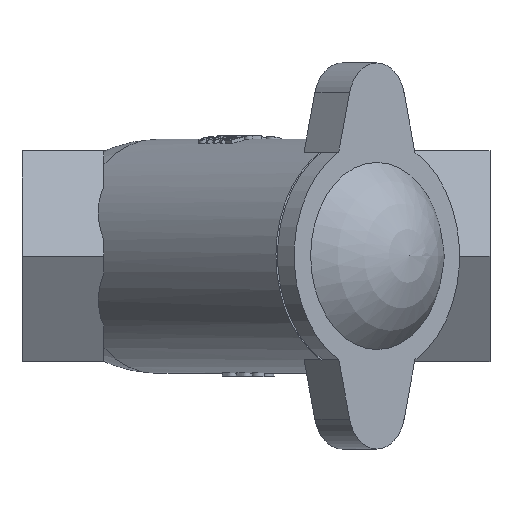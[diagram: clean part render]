
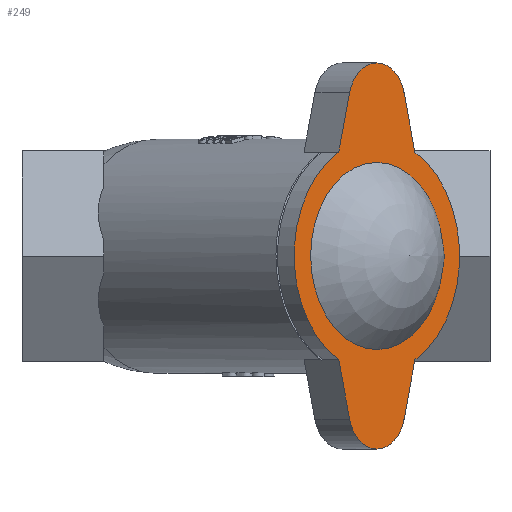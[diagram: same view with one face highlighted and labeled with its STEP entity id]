
A CAD part, top view. The second image highlights one B-rep face of the part: STEP entity #249.
In plain terms, the highlighted planar face has unit normal (0.707, 0, 0.707).
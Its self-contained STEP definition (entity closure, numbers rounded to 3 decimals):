
#249 = ADVANCED_FACE( '', ( #668, #669 ), #670, .F. );
#668 = FACE_OUTER_BOUND( '', #1658, .T. );
#669 = FACE_BOUND( '', #1659, .T. );
#670 = PLANE( '', #1660 );
#1658 = EDGE_LOOP( '', ( #6585, #6586, #6587, #6588, #6589, #6590, #6591, #6592 ) );
#1659 = EDGE_LOOP( '', ( #6593 ) );
#1660 = AXIS2_PLACEMENT_3D( '', #6594, #6595, #6596 );
#6585 = ORIENTED_EDGE( '', *, *, #8128, .F. );
#6586 = ORIENTED_EDGE( '', *, *, #8129, .F. );
#6587 = ORIENTED_EDGE( '', *, *, #8130, .F. );
#6588 = ORIENTED_EDGE( '', *, *, #8131, .F. );
#6589 = ORIENTED_EDGE( '', *, *, #8132, .F. );
#6590 = ORIENTED_EDGE( '', *, *, #8133, .T. );
#6591 = ORIENTED_EDGE( '', *, *, #8134, .T. );
#6592 = ORIENTED_EDGE( '', *, *, #8050, .T. );
#6593 = ORIENTED_EDGE( '', *, *, #8135, .T. );
#6594 = CARTESIAN_POINT( '', ( 23.36, 0., 122.929 ) );
#6595 = DIRECTION( '', ( -0.707, 0., -0.707 ) );
#6596 = DIRECTION( '', ( -0.707, 0., 0.707 ) );
#8050 = EDGE_CURVE( '', #8723, #8724, #8725, .T. );
#8128 = EDGE_CURVE( '', #8863, #8724, #8864, .T. );
#8129 = EDGE_CURVE( '', #8865, #8863, #8866, .T. );
#8130 = EDGE_CURVE( '', #8867, #8865, #8868, .T. );
#8131 = EDGE_CURVE( '', #8869, #8867, #8870, .T. );
#8132 = EDGE_CURVE( '', #8871, #8869, #8872, .T. );
#8133 = EDGE_CURVE( '', #8871, #8873, #8874, .T. );
#8134 = EDGE_CURVE( '', #8873, #8723, #8875, .T. );
#8135 = EDGE_CURVE( '', #8876, #8876, #8877, .T. );
#8723 = VERTEX_POINT( '', #9816 );
#8724 = VERTEX_POINT( '', #9817 );
#8725 = LINE( '', #9818, #9819 );
#8863 = VERTEX_POINT( '', #10346 );
#8864 = CIRCLE( '', #10347, 50. );
#8865 = VERTEX_POINT( '', #10348 );
#8866 = LINE( '', #10349, #10350 );
#8867 = VERTEX_POINT( '', #10351 );
#8868 = CIRCLE( '', #10352, 17. );
#8869 = VERTEX_POINT( '', #10353 );
#8870 = LINE( '', #10354, #10355 );
#8871 = VERTEX_POINT( '', #10356 );
#8872 = CIRCLE( '', #10357, 50. );
#8873 = VERTEX_POINT( '', #10358 );
#8874 = LINE( '', #10359, #10360 );
#8875 = CIRCLE( '', #10361, 17. );
#8876 = VERTEX_POINT( '', #10362 );
#8877 = CIRCLE( '', #10363, 40. );
#9816 = CARTESIAN_POINT( '', ( 40.005, 69.746, 106.284 ) );
#9817 = CARTESIAN_POINT( '', ( 35.381, 44.396, 110.908 ) );
#9818 = CARTESIAN_POINT( '', ( 40.005, 69.746, 106.284 ) );
#9819 = VECTOR( '', #15088, 1000. );
#10346 = CARTESIAN_POINT( '', ( 35.381, -44.396, 110.908 ) );
#10347 = AXIS2_PLACEMENT_3D( '', #15094, #15095, #15096 );
#10348 = CARTESIAN_POINT( '', ( 40.005, -69.746, 106.284 ) );
#10349 = CARTESIAN_POINT( '', ( 40.005, -69.746, 106.284 ) );
#10350 = VECTOR( '', #15097, 1000. );
#10351 = CARTESIAN_POINT( '', ( 63.284, -69.746, 83.005 ) );
#10352 = AXIS2_PLACEMENT_3D( '', #15098, #15099, #15100 );
#10353 = CARTESIAN_POINT( '', ( 67.908, -44.396, 78.381 ) );
#10354 = CARTESIAN_POINT( '', ( 63.284, -69.746, 83.005 ) );
#10355 = VECTOR( '', #15101, 1000. );
#10356 = CARTESIAN_POINT( '', ( 67.908, 44.396, 78.381 ) );
#10357 = AXIS2_PLACEMENT_3D( '', #15102, #15103, #15104 );
#10358 = CARTESIAN_POINT( '', ( 63.284, 69.746, 83.005 ) );
#10359 = CARTESIAN_POINT( '', ( 63.284, 69.746, 83.005 ) );
#10360 = VECTOR( '', #15105, 1000. );
#10361 = AXIS2_PLACEMENT_3D( '', #15106, #15107, #15108 );
#10362 = CARTESIAN_POINT( '', ( 23.36, 0., 122.929 ) );
#10363 = AXIS2_PLACEMENT_3D( '', #15109, #15110, #15111 );
#15088 = DIRECTION( '', ( -0.177, -0.968, 0.177 ) );
#15094 = CARTESIAN_POINT( '', ( 51.645, 0., 94.645 ) );
#15095 = DIRECTION( '', ( -0.707, 0., -0.707 ) );
#15096 = DIRECTION( '', ( -0.707, 0., 0.707 ) );
#15097 = DIRECTION( '', ( -0.177, 0.968, 0.177 ) );
#15098 = CARTESIAN_POINT( '', ( 51.645, -65.5, 94.645 ) );
#15099 = DIRECTION( '', ( -0.707, 0., -0.707 ) );
#15100 = DIRECTION( '', ( 0., 1., 0. ) );
#15101 = DIRECTION( '', ( -0.177, -0.968, 0.177 ) );
#15102 = CARTESIAN_POINT( '', ( 51.645, 0., 94.645 ) );
#15103 = DIRECTION( '', ( -0.707, 0., -0.707 ) );
#15104 = DIRECTION( '', ( -0.707, 0., 0.707 ) );
#15105 = DIRECTION( '', ( -0.177, 0.968, 0.177 ) );
#15106 = CARTESIAN_POINT( '', ( 51.645, 65.5, 94.645 ) );
#15107 = DIRECTION( '', ( 0.707, 0., 0.707 ) );
#15108 = DIRECTION( '', ( 0., -1., 0. ) );
#15109 = CARTESIAN_POINT( '', ( 51.645, 0., 94.645 ) );
#15110 = DIRECTION( '', ( -0.707, 0., -0.707 ) );
#15111 = DIRECTION( '', ( -0.707, 0., 0.707 ) );
